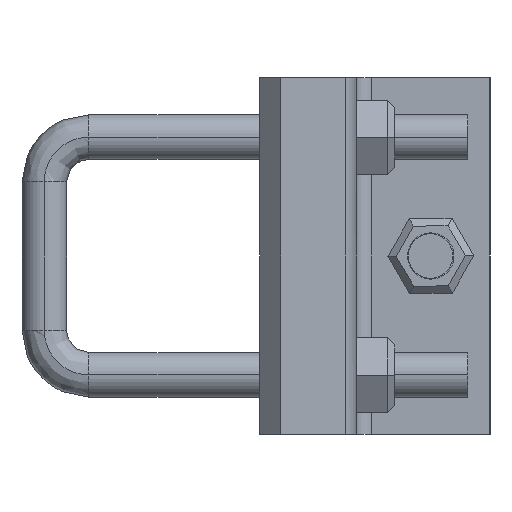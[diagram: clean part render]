
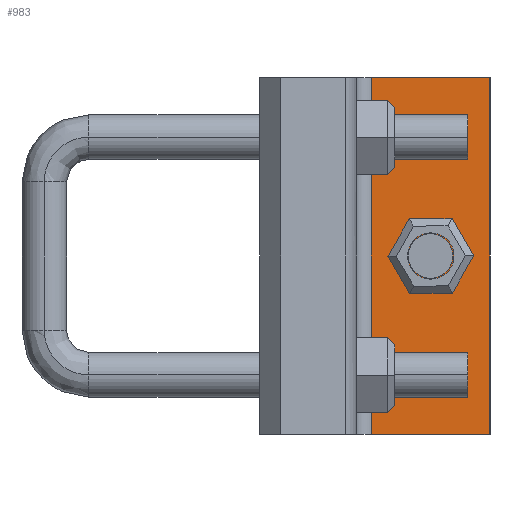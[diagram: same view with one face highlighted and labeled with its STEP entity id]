
A CAD part, left-side view. The second image highlights one B-rep face of the part: STEP entity #983.
In plain terms, the highlighted planar face has unit normal (-1, 0, 0).
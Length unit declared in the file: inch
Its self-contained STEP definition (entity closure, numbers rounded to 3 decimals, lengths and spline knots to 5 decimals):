
#983=ADVANCED_FACE('',(#2330,#2331),#2332,.T.);
#1007=EDGE_CURVE('',#2362,#1821,#2363,.T.);
#1223=EDGE_CURVE('',#2625,#2657,#2658,.T.);
#1413=EDGE_CURVE('',#2625,#1821,#2902,.T.);
#1611=EDGE_CURVE('',#2657,#2362,#3141,.T.);
#1821=VERTEX_POINT('',#3408);
#2330=FACE_OUTER_BOUND('',#4332,.T.);
#2331=FACE_BOUND('',#4333,.T.);
#2332=PLANE('',#4334);
#2362=VERTEX_POINT('',#4389);
#2363=LINE('',#4390,#4391);
#2625=VERTEX_POINT('',#5037);
#2657=VERTEX_POINT('',#5082);
#2658=LINE('',#5083,#5084);
#2902=LINE('',#5695,#5696);
#3141=LINE('',#6117,#6118);
#3408=CARTESIAN_POINT('',(-3.0,1.0,3.0));
#4332=EDGE_LOOP('',(#6991,#6992,#6993,#6994));
#4333=EDGE_LOOP('',(#6995,#6996));
#4334=AXIS2_PLACEMENT_3D('',#6997,#6998,#6999);
#4389=CARTESIAN_POINT('',(-3.0,0.0,3.0));
#4390=CARTESIAN_POINT('',(-3.0,1.0,3.0));
#4391=VECTOR('',#7016,1.);
#5037=CARTESIAN_POINT('',(-3.0,1.0,0.0));
#5082=CARTESIAN_POINT('',(-3.0,0.0,0.0));
#5083=CARTESIAN_POINT('',(-3.0,1.0,0.0));
#5084=VECTOR('',#7294,1.0);
#5695=CARTESIAN_POINT('',(-3.0,1.0,0.0));
#5696=VECTOR('',#7633,1.0);
#6117=CARTESIAN_POINT('',(-3.0,0.0,0.0));
#6118=VECTOR('',#7966,1.0);
#6991=ORIENTED_EDGE('',*,*,#1007,.T.);
#6992=ORIENTED_EDGE('',*,*,#1413,.F.);
#6993=ORIENTED_EDGE('',*,*,#1223,.T.);
#6994=ORIENTED_EDGE('',*,*,#1611,.T.);
#6995=ORIENTED_EDGE('',*,*,#8295,.F.);
#6996=ORIENTED_EDGE('',*,*,#8296,.F.);
#6997=CARTESIAN_POINT('',(-3.0,0.5,0.0));
#6998=DIRECTION('',(-1.0,0.0,0.0));
#6999=DIRECTION('',(0.0,-1.0,0.0));
#7016=DIRECTION('',(0.0,1.0,0.0));
#7294=DIRECTION('',(0.0,-1.0,0.0));
#7633=DIRECTION('',(0.0,0.0,1.0));
#7966=DIRECTION('',(0.0,0.0,1.0));
#8295=EDGE_CURVE('',#8552,#8553,#8554,.T.);
#8296=EDGE_CURVE('',#8553,#8552,#8555,.T.);
#8552=VERTEX_POINT('',#8842);
#8553=VERTEX_POINT('',#8843);
#8554=CIRCLE('',#8844,0.1875);
#8555=CIRCLE('',#8845,0.1875);
#8842=CARTESIAN_POINT('',(-3.0,0.31237,1.5));
#8843=CARTESIAN_POINT('',(-3.0,0.68737,1.5));
#8844=AXIS2_PLACEMENT_3D('',#9085,#9086,#9087);
#8845=AXIS2_PLACEMENT_3D('',#9088,#9089,#9090);
#9085=CARTESIAN_POINT('',(-3.0,0.49987,1.5));
#9086=DIRECTION('',(-1.0,0.0,0.0));
#9087=DIRECTION('',(0.0,1.0,0.0));
#9088=CARTESIAN_POINT('',(-3.0,0.49987,1.5));
#9089=DIRECTION('',(-1.0,0.0,0.0));
#9090=DIRECTION('',(0.0,1.0,0.0));
